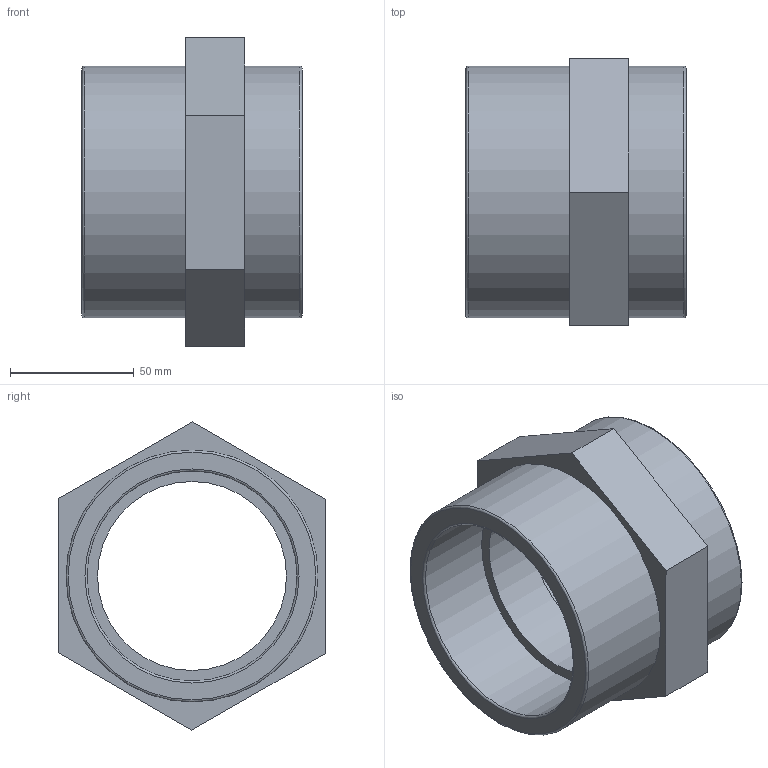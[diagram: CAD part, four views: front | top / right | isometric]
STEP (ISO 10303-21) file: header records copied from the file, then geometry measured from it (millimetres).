
FILE_DESCRIPTION(/* description */ ('PLASSON THREADED SOCKET PVC 3"'),/* implementation_level */ '2;1');
FILE_NAME(/* name */ 'C:\Dropbox\KIMPROJECTS-Inventor\99-16-3568-Processing\PVC Catalog 2017\050101\050101030.ipt.stp',/* time_stamp */ '2017-12-07T15:51:46+02:00',/* author */ ('KIM'),/* organization */ (''),/* preprocessor_version */ 'ST-DEVELOPER v15.6',/* originating_system */ 'Autodesk Inventor 2015',/* authorisation */ '');
FILE_SCHEMA (('CONFIG_CONTROL_DESIGN','AUTOMOTIVE_DESIGN { 1 0 10303 214 3 1 1 }'));
Length unit declared in the file: millimetre
Products named in the file (1): 050101030
Bounding box: 89 x 108.18 x 124.71 mm (x, y, z)
Volume: 293061.7 mm3; surface area: 63519.4 mm2
Topology: 1 solids, 1 shells, 21 faces, 41 edges, 26 vertices
Faces by surface type: plane 12, cylinder 5, torus 4
Full cylindrical faces by diameter (mm): 76.433 x1, 84.926 x2, 101.911 x2
Entity records: 520 total; most frequent: DIRECTION 90, CARTESIAN_POINT 80, ORIENTED_EDGE 64, EDGE_LOOP 36, AXIS2_PLACEMENT_3D 36, EDGE_CURVE 32, VERTEX_POINT 26, FACE_OUTER_BOUND 21
